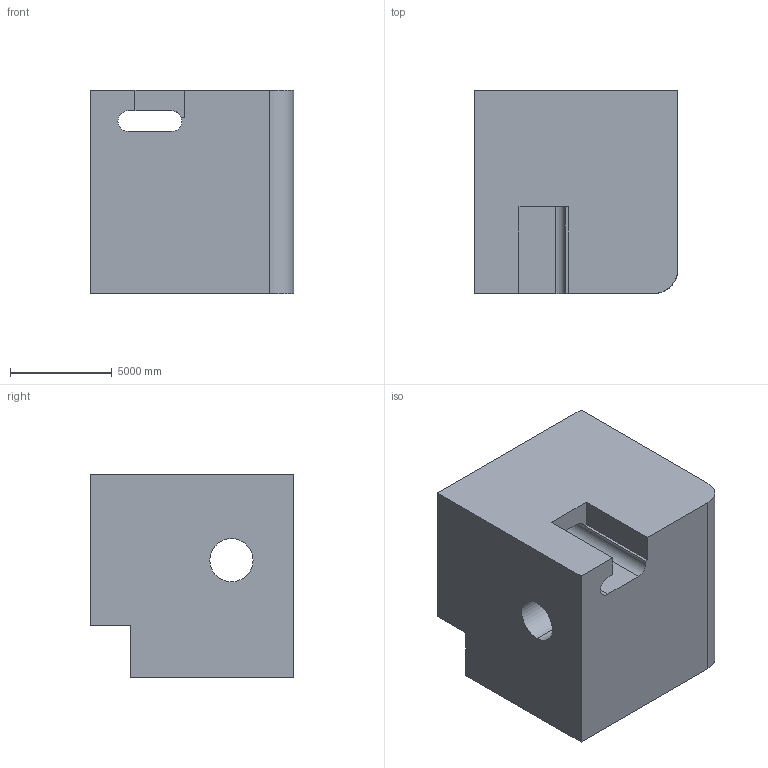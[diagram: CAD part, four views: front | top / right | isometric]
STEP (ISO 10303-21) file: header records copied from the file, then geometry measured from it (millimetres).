
FILE_DESCRIPTION (( 'STEP AP203' ), '1' );
FILE_NAME ('1531.STEP', '2022-08-18T15:06:20', ( 'user' ), ( '' ), 'SwSTEP 2.0', 'SolidWorks 2021', '' );
FILE_SCHEMA (( 'CONFIG_CONTROL_DESIGN' ));
Length unit declared in the file: centimetre
Products named in the file (1): 1531
Bounding box: 10000 x 10000 x 10000 mm (x, y, z)
Volume: 867521007894.9 mm3; surface area: 717383215.6 mm2
Topology: 1 solids, 1 shells, 23 faces, 63 edges, 42 vertices
Faces by surface type: plane 18, cylinder 5
Entity records: 813 total; most frequent: CARTESIAN_POINT 129, ORIENTED_EDGE 126, DIRECTION 122, EDGE_CURVE 63, LINE 52, VECTOR 52, VERTEX_POINT 42, AXIS2_PLACEMENT_3D 35
